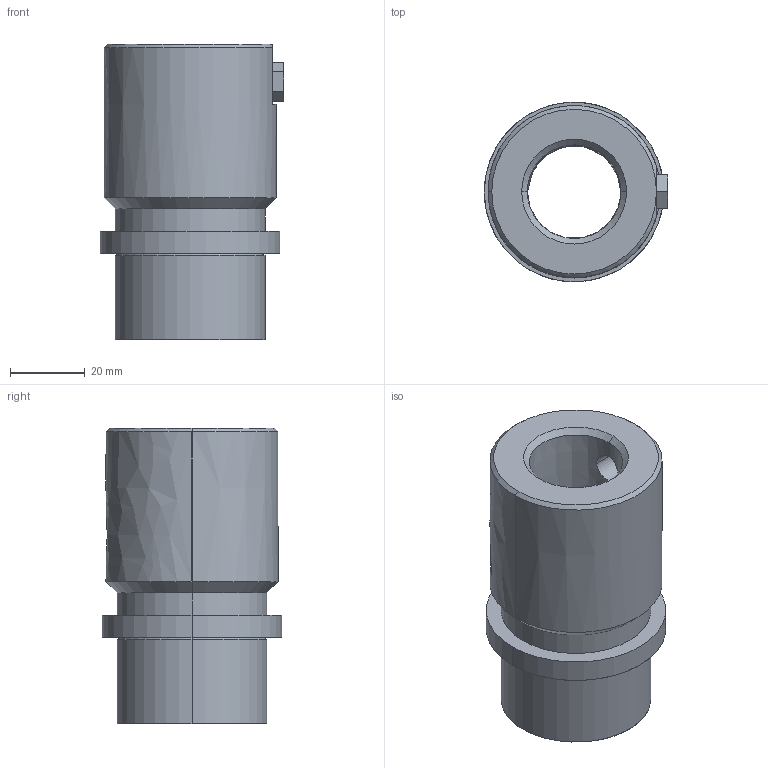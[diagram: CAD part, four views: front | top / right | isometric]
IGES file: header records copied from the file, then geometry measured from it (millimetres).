
Start section: START RECORD GO HERE.
Global section: file name: 742-25.igs; native system: DASSAULT SYSTEMES CATIA V5 R20 - www.3ds.com; preprocessor: CATIA Version 5 Release 20 ; author: Utente; organization: NB04-ASUS; date: 20210123.170031; units: millimetre
Bounding box: 49 x 48 x 79 mm (x, y, z)
Surface area: 20523.6 mm2 (no closed solid volume)
Topology: 0 solids, 0 shells, 38 faces, 178 edges, 178 vertices
Faces by surface type: revolution 24, plane 14
